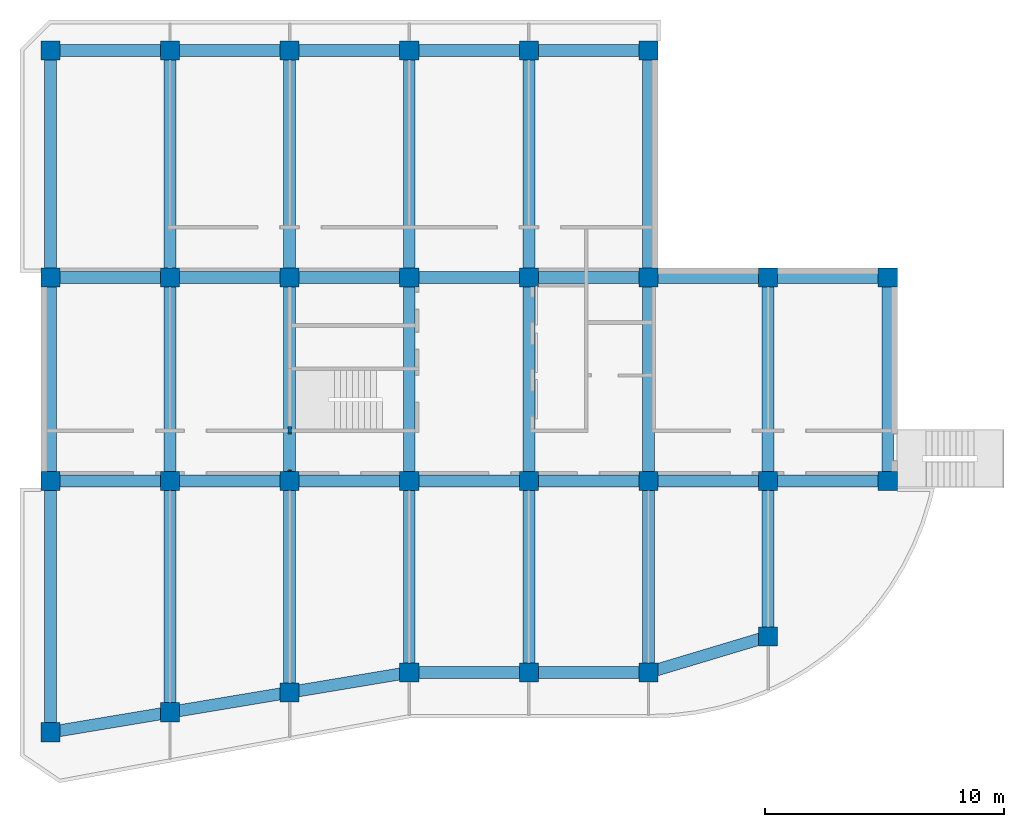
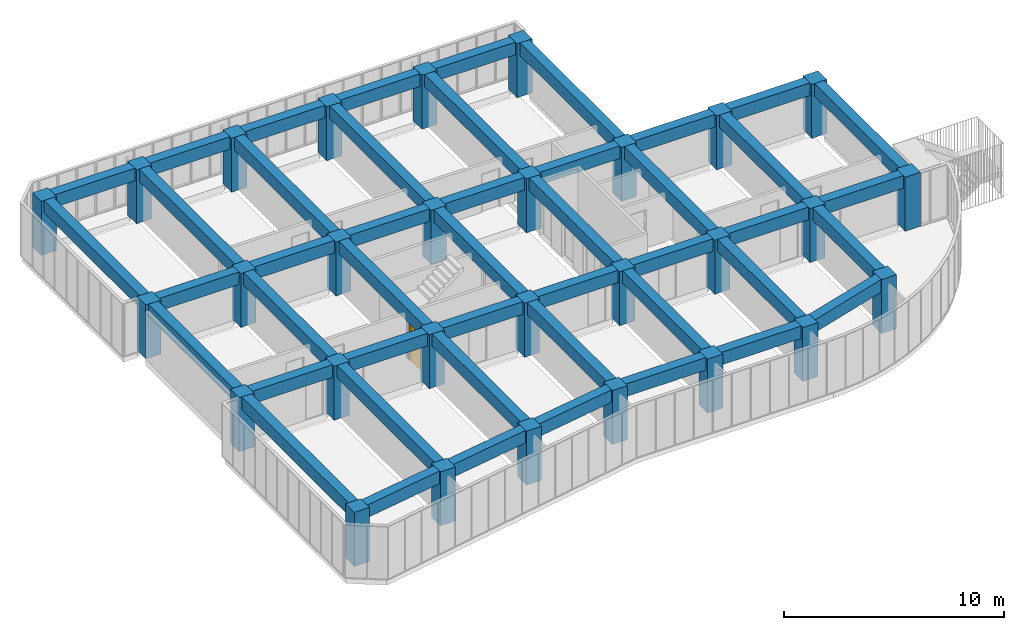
# One storey, part 1 of 5: 46 beams, 29 columns, 1 door, 1 wall, 1 opening.
"""IFC2X3 building model written with IfcOpenShell, lengths in millimetres."""

import ifcopenshell
import ifcopenshell.guid

model = None  # the IFC model being written
_history = None  # IfcOwnerHistory: only IFC2X3 demands one
_inside = {}  # id of a spatial element -> (the spatial element, [elements in it])
_under = {}  # id of a project, library or spatial element -> (it, [spatial elements below it])
_declared = {}  # id of a project -> (the project, [libraries it declares])
_typed = {}  # id of a type object -> (the type object, [elements of that type])
_made_of = {}  # id of a material, layer set ... -> (it, [elements and type objects made of it])


def new_model(schema):
    """Start an empty IFC model of exactly this schema.

    Asked for "IFC4X3", IfcOpenShell would pick the latest addendum, in which some entities
    have other attributes; the version numbers below select the first issue.
    IFC2X3 requires an IfcOwnerHistory on every rooted entity: one is made here for all.
    """
    global model, _history
    if schema == "IFC4X3":
        model = ifcopenshell.file(schema_version=(4, 3, 0, 0))
    else:
        model = ifcopenshell.file(schema=schema)
    _inside.clear()
    _under.clear()
    _declared.clear()
    _typed.clear()
    _made_of.clear()
    _history = None
    if model.schema == "IFC2X3":
        org = make("IfcOrganization", Name="unknown")
        user = make(
            "IfcPersonAndOrganization",
            ThePerson=make("IfcPerson", FamilyName="unknown"),
            TheOrganization=org,
        )
        app = make(
            "IfcApplication",
            ApplicationDeveloper=org,
            Version="unknown",
            ApplicationFullName="unknown",
            ApplicationIdentifier="unknown",
        )
        _history = make(
            "IfcOwnerHistory",
            OwningUser=user,
            OwningApplication=app,
            ChangeAction="ADDED",
            CreationDate=0,
        )
    return model


def make(cls, **values):
    """One entity of the class cls with the attributes given. An attribute that is None is left unset."""
    return model.create_entity(
        cls, **{name: value for name, value in values.items() if value is not None}
    )


def entity(cls, *values):
    """Any entity or typed value of the class cls, its attributes in the order of the schema. None: left unset."""
    e = model.create_entity(cls)
    for i, value in enumerate(values):
        if value is not None:
            e[i] = value
    return e


def rooted(cls, **values):
    """An entity with a GlobalId (a new one), such as an element, a storey or a relation."""
    return make(cls, GlobalId=ifcopenshell.guid.new(), OwnerHistory=_history, **values)


def si_unit(unit_type, name, prefix=None):
    """IfcSIUnit, for example si_unit("LENGTHUNIT", "METRE", prefix="MILLI")."""
    return make("IfcSIUnit", UnitType=unit_type, Prefix=prefix, Name=name)


def converted_unit(unit_type, name, factor, base, dimensions=None, offset=None):
    """IfcConversionBasedUnit, such as the inch: factor (a typed value) times the base unit."""
    return make(
        "IfcConversionBasedUnit"
        if offset is None
        else "IfcConversionBasedUnitWithOffset",
        ConversionOffset=offset,
        Dimensions=None
        if dimensions is None
        else entity("IfcDimensionalExponents", *dimensions),
        UnitType=unit_type,
        Name=name,
        ConversionFactor=make(
            "IfcMeasureWithUnit", ValueComponent=factor, UnitComponent=base
        ),
    )


def derived_unit(unit_type, elements):
    """IfcDerivedUnit: a product of units, each with its exponent."""
    return make(
        "IfcDerivedUnit",
        Elements=[
            make("IfcDerivedUnitElement", Unit=unit, Exponent=power)
            for unit, power in elements
        ],
        UnitType=unit_type,
    )


def money_unit(currency):
    """IfcMonetaryUnit."""
    return make("IfcMonetaryUnit", Currency=currency)


def assignment(units):
    """IfcUnitAssignment: the units of a project."""
    return None if units is None else make("IfcUnitAssignment", Units=units)


def point(xyz):
    """IfcCartesianPoint."""
    return None if xyz is None else make("IfcCartesianPoint", Coordinates=xyz)


def direction(xyz):
    """IfcDirection."""
    return None if xyz is None else make("IfcDirection", DirectionRatios=xyz)


def frame(location, z_axis=None, x_axis=None):
    """IfcAxis2Placement3D, a coordinate frame: its origin and axes. An axis left out is left unset."""
    return make(
        "IfcAxis2Placement3D",
        Location=point(location),
        Axis=direction(z_axis),
        RefDirection=direction(x_axis),
    )


def origin_with_axes():
    """The frame at (0, 0, 0) with the z axis (0, 0, 1) and the x axis (1, 0, 0) written out."""
    return frame((0.0, 0.0, 0.0), z_axis=(0.0, 0.0, 1.0), x_axis=(1.0, 0.0, 0.0))


def place(relative_to, where):
    """IfcLocalPlacement: puts the frame where relative to a parent placement (None: the world)."""
    return make(
        "IfcLocalPlacement", PlacementRelTo=relative_to, RelativePlacement=where
    )


def context(
    kind, dimensions, precision=None, world=None, true_north=None, identifier=None
):
    """IfcGeometricRepresentationContext, for example the 3D "Model" context."""
    return make(
        "IfcGeometricRepresentationContext",
        ContextIdentifier=identifier,
        ContextType=kind,
        CoordinateSpaceDimension=dimensions,
        Precision=precision,
        WorldCoordinateSystem=world,
        TrueNorth=true_north,
    )


def subcontext(parent, identifier, kind, view, scale=None):
    """IfcGeometricRepresentationSubContext, for example "Body" below "Model"."""
    return make(
        "IfcGeometricRepresentationSubContext",
        ContextIdentifier=identifier,
        ContextType=kind,
        ParentContext=parent,
        TargetScale=scale,
        TargetView=view,
    )


def project(units=None, contexts=None):
    """IfcProject with its units and contexts."""
    return rooted(
        "IfcProject",
        Name="project",
        RepresentationContexts=contexts,
        UnitsInContext=assignment(units),
    )


def spatial(cls, under=None, at=None, **own):
    """A site, building, storey or space (cls), placed at a placement, below another one or the project."""
    s = rooted(cls, ObjectPlacement=at, **own)
    if under is not None:
        _under.setdefault(under.id(), (under, []))[1].append(s)
    return s


def faces_of(points, faces, orient=None, outer=None):
    """IfcFace entities. A face is a list of loops; a loop is a list of indices into points, from 0.

    orient and outer hold one flag for each loop. By default every Orientation is true, the
    first loop of a face is its IfcFaceOuterBound and the others are IfcFaceBound.
    """
    made = []
    for i, loops in enumerate(faces):
        bounds = []
        for j, loop in enumerate(loops):
            is_outer = j == 0 if outer is None else outer[i][j]
            bounds.append(
                make(
                    "IfcFaceOuterBound" if is_outer else "IfcFaceBound",
                    Bound=make("IfcPolyLoop", Polygon=[points[k] for k in loop]),
                    Orientation=True if orient is None else orient[i][j],
                )
            )
        made.append(make("IfcFace", Bounds=bounds))
    return made


def open_shell(faces, orient=None, outer=None):
    """The faces of one IfcOpenShell. surface_model builds it on its shared points."""
    return ("IfcOpenShell", faces, orient, outer)


def faceted_brep(points, faces, orient=None, outer=None, voids=None):
    """IfcFacetedBrep: a solid bounded by flat faces; with voids (closed shells), ...WithVoids."""
    shared = [point(p) for p in points]
    hull = make("IfcClosedShell", CfsFaces=faces_of(shared, faces, orient, outer))
    if voids is None:
        return make("IfcFacetedBrep", Outer=hull)
    return make(
        "IfcFacetedBrepWithVoids",
        Outer=hull,
        Voids=[
            make(cls, CfsFaces=faces_of(shared, fs, o, b)) for cls, fs, o, b in voids
        ],
    )


def surface_model(cls, points, shells):
    """IfcFaceBasedSurfaceModel or IfcShellBasedSurfaceModel (cls): surfaces that need not close."""
    shared = [point(p) for p in points]
    made = [make(c, CfsFaces=faces_of(shared, fs, o, b)) for c, fs, o, b in shells]
    if cls == "IfcFaceBasedSurfaceModel":
        return make(cls, FbsmFaces=made)
    return make(cls, SbsmBoundary=made)


def shape(context_of_items, identifier, shape_type, items):
    """IfcShapeRepresentation: the items that make up one representation, for example the "Body"."""
    return make(
        "IfcShapeRepresentation",
        ContextOfItems=context_of_items,
        RepresentationIdentifier=identifier,
        RepresentationType=shape_type,
        Items=items,
    )


def source(mapping_origin, context_of_items, identifier, shape_type, items):
    """IfcRepresentationMap: a shape defined once, which mapped items show again and again."""
    return make(
        "IfcRepresentationMap",
        MappingOrigin=mapping_origin,
        MappedRepresentation=shape(context_of_items, identifier, shape_type, items),
    )


def transform(
    local_origin,
    x_axis=None,
    y_axis=None,
    z_axis=None,
    scale=None,
    scale2=None,
    scale3=None,
    uniform=True,
):
    """IfcCartesianTransformationOperator3D, or its non-uniform kind. x_axis, y_axis, z_axis: its Axis1, 2, 3."""
    if uniform:
        return make(
            "IfcCartesianTransformationOperator3D",
            Axis1=direction(x_axis),
            Axis2=direction(y_axis),
            LocalOrigin=point(local_origin),
            Scale=scale,
            Axis3=direction(z_axis),
        )
    return make(
        "IfcCartesianTransformationOperator3DnonUniform",
        Axis1=direction(x_axis),
        Axis2=direction(y_axis),
        LocalOrigin=point(local_origin),
        Scale=scale,
        Axis3=direction(z_axis),
        Scale2=scale2,
        Scale3=scale3,
    )


def mapped(mapping_source, mapping_target):
    """IfcMappedItem: shows the shape of a source again, moved by a transform."""
    return make(
        "IfcMappedItem", MappingSource=mapping_source, MappingTarget=mapping_target
    )


def material(Name=None, Category=None):
    """IfcMaterial."""
    return make("IfcMaterial", Name=Name, Category=Category)


def made_of(thing, what):
    """Note that an element or type object is made of a material, layer set ...; save() writes the relation."""
    if what is not None:
        _made_of.setdefault(what.id(), (what, []))[1].append(thing)
    return thing


def type_object(cls, material=None, **own):
    """A type object (cls), such as IfcWallType, which elements share."""
    return made_of(rooted(cls, **own), material)


def element(
    cls,
    number,
    at=None,
    inside=None,
    cuts=None,
    type_object=None,
    material=None,
    context=None,
    identifier="Body",
    shape_type=None,
    held_by="IfcProductDefinitionShape",
    body=None,
    shapes=None,
    **own,
):
    """One element of the class cls, such as IfcWall. Its Tag is "e" and its number.

    at: its placement. inside: the storey or other place that contains it. cuts: it is an
    opening in that element (IfcRelVoidsElement). A single representation is given by context,
    identifier, shape_type and body (its items); several are given by shapes. held_by: the class
    of the entity that holds the representations. save() writes the other relations.
    """
    e = rooted(cls, Tag="e%d" % number, ObjectPlacement=at, **own)
    if body is not None:
        shapes = [shape(context, identifier, shape_type, body)]
    if shapes is not None:
        e.Representation = make(held_by, Representations=shapes)
    if inside is not None:
        _inside.setdefault(inside.id(), (inside, []))[1].append(e)
    if cuts is not None:
        rooted(
            "IfcRelVoidsElement", RelatingBuildingElement=cuts, RelatedOpeningElement=e
        )
    if type_object is not None:
        _typed.setdefault(type_object.id(), (type_object, []))[1].append(e)
    return made_of(e, material)


def fill(opening, filler):
    """IfcRelFillsElement: the door or window that sits in an opening."""
    return rooted(
        "IfcRelFillsElement",
        RelatingOpeningElement=opening,
        RelatedBuildingElement=filler,
    )


def aggregate(whole, parts):
    """IfcRelAggregates: a whole, such as a stair, and the parts it consists of."""
    return rooted("IfcRelAggregates", RelatingObject=whole, RelatedObjects=parts)


def save(model, path):
    """Write the relations noted so far, then the file.

    IfcRelAggregates (storeys below a building ...), IfcRelContainedInSpatialStructure (elements
    in a storey), IfcRelDefinesByType, IfcRelAssociatesMaterial and IfcRelDeclares: one each for
    every whole, place, type object, material and project.
    """
    for whole, parts in _under.values():
        aggregate(whole, parts)
    for where, things in _inside.values():
        rooted(
            "IfcRelContainedInSpatialStructure",
            RelatedElements=things,
            RelatingStructure=where,
        )
    for kind, things in _typed.values():
        rooted("IfcRelDefinesByType", RelatedObjects=things, RelatingType=kind)
    for what, things in _made_of.values():
        rooted("IfcRelAssociatesMaterial", RelatedObjects=things, RelatingMaterial=what)
    for by, libraries in _declared.values():
        rooted("IfcRelDeclares", RelatingContext=by, RelatedDefinitions=libraries)
    model.write(path)


model = new_model("IFC2X3")

# Units and contexts
model_context = context("Model", 3, precision=0.01, world=origin_with_axes(), true_north=direction((0.0, 1.0)))
body_context = subcontext(model_context, "Body", "Model", "MODEL_VIEW")
ifc_project = project(units=[si_unit("LENGTHUNIT", "METRE", prefix="MILLI"), si_unit("AREAUNIT", "SQUARE_METRE"), si_unit("VOLUMEUNIT", "CUBIC_METRE"), converted_unit("PLANEANGLEUNIT", "DEGREE", entity("IfcPlaneAngleMeasure", 0.0174532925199), si_unit("PLANEANGLEUNIT", "RADIAN"), dimensions=[0, 0, 0, 0, 0, 0, 0]), si_unit("SOLIDANGLEUNIT", "STERADIAN"), money_unit("JPY"), converted_unit("TIMEUNIT", "Year", entity("IfcTimeMeasure", 31556926.0), si_unit("TIMEUNIT", "SECOND"), dimensions=[0, 0, 1, 0, 0, 0, 0]), si_unit("MASSUNIT", "GRAM", prefix="KILO"), si_unit("THERMODYNAMICTEMPERATUREUNIT", "DEGREE_CELSIUS"), si_unit("LUMINOUSINTENSITYUNIT", "LUMEN"), si_unit("ENERGYUNIT", "JOULE", prefix="MEGA"), derived_unit("THERMALCONDUCTANCEUNIT", [(si_unit("POWERUNIT", "WATT"), 1), (si_unit("LENGTHUNIT", "METRE"), -1), (si_unit("THERMODYNAMICTEMPERATUREUNIT", "KELVIN"), -1)]), derived_unit("SPECIFICHEATCAPACITYUNIT", [(si_unit("ENERGYUNIT", "JOULE"), 1), (si_unit("MASSUNIT", "GRAM", prefix="KILO"), -1), (si_unit("THERMODYNAMICTEMPERATUREUNIT", "KELVIN"), -1)]), derived_unit("MASSDENSITYUNIT", [(si_unit("MASSUNIT", "GRAM", prefix="KILO"), 1), (si_unit("VOLUMEUNIT", "CUBIC_METRE"), -1)])], contexts=[model_context])

# Site, building, storey
site_placement = place(None, origin_with_axes())
site = spatial("IfcSite", under=ifc_project, at=site_placement, Name="サイト", CompositionType="ELEMENT")
building_placement = place(site_placement, origin_with_axes())
building = spatial("IfcBuilding", under=site, at=building_placement, Name="建築", CompositionType="ELEMENT")
storey_placement = place(building_placement, frame((0.0, 0.0, 15000.0), z_axis=(0.0, 0.0, 1.0), x_axis=(1.0, 0.0, 0.0)))
storey = spatial("IfcBuildingStorey", under=building, at=storey_placement, Name="6FL", CompositionType="ELEMENT", Elevation=15000.0)

# Columns
ifc_material = material(Name="コンクリート")
column_type = type_object("IfcColumnType", Name="コンクリート 800 x 800", PredefinedType="NOTDEFINED")
for number, where, z_axis, x_axis, name in (
    (1, (0.0, 0.0, 0.0), (0.0, 0.0, 1.0), (1.0, 0.0, 0.0), "6FLC1"),
    (2, (5000.0, 0.0, 0.0), (0.0, 0.0, 1.0), (1.0, 0.0, 0.0), "6FLC1"),
    (3, (10000.0, 0.0, 0.0), (0.0, 0.0, 1.0), (1.0, 0.0, 0.0), "6FLC1"),
    (4, (15000.0, 0.0, 0.0), (0.0, 0.0, 1.0), (1.0, 0.0, 0.0), "6FLC1"),
    (5, (20000.0, 0.0, 0.0), (0.0, 0.0, 1.0), (1.0, 0.0, 0.0), "6FLC1"),
    (6, (25000.0, 0.0, 0.0), (0.0, 0.0, 1.0), (1.0, 0.0, 0.0), "6FLC1"),
    (7, (30000.0, 0.0, 0.0), (0.0, 0.0, 1.0), (1.0, 0.0, 0.0), "6FLC1"),
    (8, (35000.0, 0.0, 0.0), (0.0, 0.0, 1.0), (1.0, 0.0, 0.0), "6FLC1"),
    (9, (35000.0, 8500.0, 0.0), (0.0, 0.0, 1.0), (1.0, 0.0, 0.0), "6FLC1"),
    (10, (30000.0, 8500.0, 0.0), (0.0, 0.0, 1.0), (1.0, 0.0, 0.0), "6FLC1"),
    (11, (25000.0, 8500.0, 0.0), (0.0, 0.0, 1.0), (1.0, 0.0, 0.0), "6FLC1"),
    (12, (20000.0, 8500.0, 0.0), (0.0, 0.0, 1.0), (1.0, 0.0, 0.0), "6FLC1"),
    (13, (15000.0, 8500.0, 0.0), (0.0, 0.0, 1.0), (1.0, 0.0, 0.0), "6FLC1"),
    (14, (10000.0, 8500.0, 0.0), (0.0, 0.0, 1.0), (1.0, 0.0, 0.0), "6FLC1"),
    (15, (5000.0, 8500.0, 0.0), (0.0, 0.0, 1.0), (1.0, 0.0, 0.0), "6FLC1"),
    (16, (0.0, -10500.0, 0.0), (0.0, 0.0, 1.0), (1.0, 0.0, 0.0), "6FLC1"),
    (17, (5000.0, -9666.66666667, 0.0), (0.0, 0.0, 1.0), (1.0, 0.0, 0.0), "6FLC1"),
    (18, (10000.0, -8833.33333333, 0.0), (0.0, 0.0, 1.0), (1.0, 0.0, 0.0), "6FLC1"),
    (19, (15000.0, -8000.0, 0.0), (0.0, 0.0, 1.0), (1.0, 0.0, 0.0), "6FLC1"),
    (20, (20000.0, -8000.0, 0.0), (0.0, 0.0, 1.0), (1.0, 0.0, 0.0), "6FLC1"),
    (21, (25000.0, -8000.0, 0.0), (0.0, 0.0, 1.0), (1.0, 0.0, 0.0), "6FLC1"),
    (22, (25000.0, 18000.0, 0.0), (0.0, 0.0, 1.0), (1.0, 0.0, 0.0), "6FLC1"),
    (23, (20000.0, 18000.0, 0.0), (0.0, 0.0, 1.0), (1.0, 0.0, 0.0), "6FLC1"),
    (24, (15000.0, 18000.0, 0.0), (0.0, 0.0, 1.0), (1.0, 0.0, 0.0), "6FLC1"),
    (25, (10000.0, 18000.0, 0.0), (0.0, 0.0, 1.0), (1.0, 0.0, 0.0), "6FLC1"),
    (26, (5000.0, 18000.0, 0.0), (0.0, 0.0, 1.0), (1.0, 0.0, 0.0), "6FLC1"),
    (27, (0.0, 18000.0, 0.0), (0.0, 0.0, 1.0), (1.0, 0.0, 0.0), "6FLC1"),
    (28, (0.0, 8500.0, 0.0), (0.0, 0.0, 1.0), (1.0, 0.0, 0.0), "6FLC1"),
    (29, (30000.0, -6500.0, 0.0), (0.0, 0.0, 1.0), (1.0, 0.0, 0.0), "6FLC1"),
):
    element("IfcColumn", number, at=place(storey_placement, frame(where, z_axis=z_axis, x_axis=x_axis)), inside=storey, type_object=column_type, material=ifc_material, Name=name, context=body_context, shape_type="Brep", body=[
        faceted_brep([(-400.0, -400.0, 3000.0), (-400.0, -400.0, 0.0), (400.0, -400.0, 0.0), (400.0, -400.0, 3000.0), (-400.0, 400.0, 3000.0), (-400.0, 400.0, 0.0), (400.0, 400.0, 0.0), (400.0, 400.0, 3000.0)], [[[0, 1, 2, 3]], [[4, 5, 1, 0]], [[2, 1, 5, 6]], [[3, 2, 6, 7]], [[4, 0, 3, 7]], [[7, 6, 5, 4]]]),
    ])

# Beams
beam_type = type_object("IfcBeamType", Name="コンクリート 500 x 700", PredefinedType="NOTDEFINED")
beam_1_placement = place(storey_placement, frame((20000.0, -8000.0, 3000.0), z_axis=(0.0, 0.0, 1.0), x_axis=(0.0, 1.0, 0.0)))
element("IfcBeam", 30, at=beam_1_placement, inside=storey, type_object=beam_type, material=ifc_material, Name="6FLG1", context=body_context, shape_type="Brep", body=[
    faceted_brep([(250.000000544, 400.0, -700.0), (250.000004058, 4600.0, -700.0), (250.000004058, 4600.0, 0.0), (250.000000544, 400.0, 0.0), (-250.000000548, 400.0, -700.0), (-250.00000409, 4600.0, -700.0), (-250.00000409, 4600.0, 0.0), (-250.000000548, 400.0, 0.0)], [[[0, 1, 2, 3]], [[4, 5, 1, 0]], [[5, 6, 2, 1]], [[3, 2, 6, 7]], [[4, 0, 3, 7]], [[7, 6, 5, 4]]]),
])
beam_2_placement = place(storey_placement, frame((25000.0, 0.0, 3000.0), z_axis=(0.0, 0.0, 1.0), x_axis=(-1.0, 0.0, 0.0)))
element("IfcBeam", 31, at=beam_2_placement, inside=storey, type_object=beam_type, material=ifc_material, Name="6FLG1", context=body_context, shape_type="Brep", body=[
    faceted_brep([(-250.0, 7600.0, -700.0), (-250.0, 400.0, -700.0), (-250.0, 400.0, 0.0), (-250.0, 7600.0, 0.0), (250.0, 7600.0, -700.0), (250.0, 400.0, -700.0), (250.0, 400.0, 0.0), (250.0, 7600.0, 0.0)], [[[0, 1, 2, 3]], [[4, 5, 1, 0]], [[5, 6, 2, 1]], [[3, 2, 6, 7]], [[4, 0, 3, 7]], [[7, 6, 5, 4]]]),
])
for number, where, z_axis, x_axis, name in (
    (32, (20000.0, 8500.0, 3000.0), (0.0, 0.0, 1.0), (0.0, -1.0, 0.0), "6FLG1"),
    (33, (15000.0, 8500.0, 3000.0), (0.0, 0.0, 1.0), (0.0, -1.0, 0.0), "6FLG1"),
    (34, (10000.0, 8500.0, 3000.0), (0.0, 0.0, 1.0), (0.0, -1.0, 0.0), "6FLG1"),
    (35, (5000.0, 8500.0, 3000.0), (0.0, 0.0, 1.0), (0.0, -1.0, 0.0), "6FLG1"),
    (36, (5000.0, 18000.0, 3000.0), (0.0, 0.0, 1.0), (0.0, -1.0, 0.0), "6FLG1"),
):
    element("IfcBeam", number, at=place(storey_placement, frame(where, z_axis=z_axis, x_axis=x_axis)), inside=storey, type_object=beam_type, material=ifc_material, Name=name, context=body_context, shape_type="Brep", body=[
        faceted_brep([(250.0, 400.0, 0.0), (250.0, 4600.0, 0.0), (-250.0, 4600.0, 0.0), (-250.0, 400.0, 0.0), (250.0, 400.0, -700.0), (250.0, 4600.0, -700.0), (-250.0, 4600.0, -700.0), (-250.0, 400.0, -700.0)], [[[0, 1, 2, 3]], [[4, 5, 1, 0]], [[5, 6, 2, 1]], [[3, 2, 6, 7]], [[4, 0, 3, 7]], [[7, 6, 5, 4]]]),
    ])
for number, where, z_axis, x_axis, name in (
    (37, (20000.0, 0.0, 3000.0), (0.0, 0.0, 1.0), (0.0, -1.0, 0.0), "6FLG1"),
    (38, (15000.0, 0.0, 3000.0), (0.0, 0.0, 1.0), (0.0, -1.0, 0.0), "6FLG1"),
    (39, (10000.0, 0.0, 3000.0), (0.0, 0.0, 1.0), (0.0, -1.0, 0.0), "6FLG1"),
):
    element("IfcBeam", number, at=place(storey_placement, frame(where, z_axis=z_axis, x_axis=x_axis)), inside=storey, type_object=beam_type, material=ifc_material, Name=name, context=body_context, shape_type="Brep", body=[
        faceted_brep([(-250.0, 4600.0, -700.0), (-250.0, 400.0, -700.0), (-250.0, 400.0, 0.0), (-250.0, 4600.0, 0.0), (250.0, 4600.0, -700.0), (250.0, 400.0, -700.0), (250.0, 400.0, 0.0), (250.0, 4600.0, 0.0)], [[[0, 1, 2, 3]], [[4, 5, 1, 0]], [[5, 6, 2, 1]], [[3, 2, 6, 7]], [[4, 0, 3, 7]], [[7, 6, 5, 4]]]),
    ])
for number, where, z_axis, x_axis, name in (
    (40, (10000.0, 18000.0, 3000.0), (0.0, 0.0, 1.0), (0.0, -1.0, 0.0), "6FLG1"),
    (41, (0.0, 8500.0, 3000.0), (0.0, 0.0, 1.0), (0.0, -1.0, 0.0), "6FLG1"),
):
    element("IfcBeam", number, at=place(storey_placement, frame(where, z_axis=z_axis, x_axis=x_axis)), inside=storey, type_object=beam_type, material=ifc_material, Name=name, context=body_context, shape_type="Brep", body=[
        faceted_brep([(250.0, 400.0, 0.0), (250.0, 4600.0, 0.0), (-250.0, 4600.0, 0.0), (-250.0, 400.0, 0.0), (250.0, 400.0, -700.0), (250.0, 4600.0, -700.0), (-250.0, 4600.0, -700.0), (-250.0, 400.0, -700.0)], [[[0, 1, 2, 3]], [[4, 5, 1, 0]], [[5, 6, 2, 1]], [[3, 2, 6, 7]], [[4, 0, 3, 7]], [[7, 6, 5, 4]]]),
    ])
beam_3_placement = place(storey_placement, frame((30000.0, 0.0, 3000.0), z_axis=(0.0, 0.0, 1.0), x_axis=(0.0, -1.0, 0.0)))
element("IfcBeam", 42, at=beam_3_placement, inside=storey, type_object=beam_type, material=ifc_material, Name="6FLG1", context=body_context, shape_type="Brep", body=[
    faceted_brep([(-250.0, 4600.0, -700.0), (-250.0, 400.0, -700.0), (-250.0, 400.0, 0.0), (-250.0, 4600.0, 0.0), (250.0, 4600.0, -700.0), (250.0, 400.0, -700.0), (250.0, 400.0, 0.0), (250.0, 4600.0, 0.0)], [[[0, 1, 2, 3]], [[4, 5, 1, 0]], [[5, 6, 2, 1]], [[3, 2, 6, 7]], [[4, 0, 3, 7]], [[7, 6, 5, 4]]]),
])
beam_4_placement = place(storey_placement, frame((0.0, 18000.0, 3000.0), z_axis=(0.0, 0.0, 1.0), x_axis=(-1.0, 0.0, 0.0)))
element("IfcBeam", 43, at=beam_4_placement, inside=storey, type_object=beam_type, material=ifc_material, Name="6FLG1", context=body_context, shape_type="Brep", body=[
    faceted_brep([(-250.0, 9100.0, -700.0), (-250.0, 400.0, -700.0), (-250.0, 400.0, 0.0), (-250.0, 9100.0, 0.0), (250.0, 9100.0, -700.0), (250.0, 400.0, -700.0), (250.0, 400.0, 0.0), (250.0, 9100.0, 0.0)], [[[0, 1, 2, 3]], [[4, 5, 1, 0]], [[5, 6, 2, 1]], [[3, 2, 6, 7]], [[4, 0, 3, 7]], [[7, 6, 5, 4]]]),
])
for number, where, z_axis, x_axis, name in (
    (44, (25000.0, 8500.0, 3000.0), (0.0, 0.0, 1.0), (0.0, -1.0, 0.0), "6FLG1"),
    (45, (0.0, 18000.0, 3000.0), (0.0, 0.0, 1.0), (0.0, -1.0, 0.0), "6FLG1"),
):
    element("IfcBeam", number, at=place(storey_placement, frame(where, z_axis=z_axis, x_axis=x_axis)), inside=storey, type_object=beam_type, material=ifc_material, Name=name, context=body_context, shape_type="Brep", body=[
        faceted_brep([(250.0, 400.0, 0.0), (250.0, 4600.0, 0.0), (-250.0, 4600.0, 0.0), (-250.0, 400.0, 0.0), (250.0, 400.0, -700.0), (250.0, 4600.0, -700.0), (-250.0, 4600.0, -700.0), (-250.0, 400.0, -700.0)], [[[0, 1, 2, 3]], [[4, 5, 1, 0]], [[5, 6, 2, 1]], [[3, 2, 6, 7]], [[4, 0, 3, 7]], [[7, 6, 5, 4]]]),
    ])
beam_5_placement = place(storey_placement, frame((30000.0, 8500.0, 3000.0), z_axis=(0.0, 0.0, 1.0), x_axis=(-1.0, 0.0, 0.0)))
element("IfcBeam", 46, at=beam_5_placement, inside=storey, type_object=beam_type, material=ifc_material, Name="6FLG1", context=body_context, shape_type="Brep", body=[
    faceted_brep([(250.0, 400.0, 0.0), (250.0, 8100.0, 0.0), (-250.0, 8100.0, 0.0), (-250.0, 400.0, 0.0), (250.0, 400.0, -700.0), (250.0, 8100.0, -700.0), (-250.0, 8100.0, -700.0), (-250.0, 400.0, -700.0)], [[[0, 1, 2, 3]], [[4, 5, 1, 0]], [[5, 6, 2, 1]], [[3, 2, 6, 7]], [[4, 0, 3, 7]], [[7, 6, 5, 4]]]),
])
beam_6_placement = place(storey_placement, frame((25000.0, 18000.0, 3000.0), z_axis=(0.0, 0.0, 1.0), x_axis=(-1.0, 0.0, 0.0)))
element("IfcBeam", 47, at=beam_6_placement, inside=storey, type_object=beam_type, material=ifc_material, Name="6FLG1", context=body_context, shape_type="Brep", body=[
    faceted_brep([(250.0, 400.0, 0.0), (250.0, 9100.0, 0.0), (-250.0, 9100.0, 0.0), (-250.0, 400.0, 0.0), (250.0, 400.0, -700.0), (250.0, 9100.0, -700.0), (-250.0, 9100.0, -700.0), (-250.0, 400.0, -700.0)], [[[0, 1, 2, 3]], [[4, 5, 1, 0]], [[5, 6, 2, 1]], [[3, 2, 6, 7]], [[4, 0, 3, 7]], [[7, 6, 5, 4]]]),
])
beam_7_placement = place(storey_placement, frame((35000.0, 8500.0, 3000.0), z_axis=(0.0, 0.0, 1.0), x_axis=(-1.0, 0.0, 0.0)))
element("IfcBeam", 48, at=beam_7_placement, inside=storey, type_object=beam_type, material=ifc_material, Name="6FLG1", context=body_context, shape_type="Brep", body=[
    faceted_brep([(250.0, 400.0, 0.0), (250.0, 8100.0, 0.0), (-250.0, 8100.0, 0.0), (-250.0, 400.0, 0.0), (250.0, 400.0, -700.0), (250.0, 8100.0, -700.0), (-250.0, 8100.0, -700.0), (-250.0, 400.0, -700.0)], [[[0, 1, 2, 3]], [[4, 5, 1, 0]], [[5, 6, 2, 1]], [[3, 2, 6, 7]], [[4, 0, 3, 7]], [[7, 6, 5, 4]]]),
])
for number, where, z_axis, x_axis, name in (
    (49, (5000.0, 0.0, 3000.0), (0.0, 0.0, 1.0), (0.0, -1.0, 0.0), "6FLG1"),
    (50, (0.0, 0.0, 3000.0), (0.0, 0.0, 1.0), (0.0, -1.0, 0.0), "6FLG1"),
):
    element("IfcBeam", number, at=place(storey_placement, frame(where, z_axis=z_axis, x_axis=x_axis)), inside=storey, type_object=beam_type, material=ifc_material, Name=name, context=body_context, shape_type="Brep", body=[
        faceted_brep([(-250.0, 4600.0, -700.0), (-250.0, 400.0, -700.0), (-250.0, 400.0, 0.0), (-250.0, 4600.0, 0.0), (250.0, 4600.0, -700.0), (250.0, 400.0, -700.0), (250.0, 400.0, 0.0), (250.0, 4600.0, 0.0)], [[[0, 1, 2, 3]], [[4, 5, 1, 0]], [[5, 6, 2, 1]], [[3, 2, 6, 7]], [[4, 0, 3, 7]], [[7, 6, 5, 4]]]),
    ])
beam_8_placement = place(storey_placement, frame((0.0, 0.0, 3000.0), z_axis=(0.0, 0.0, 1.0), x_axis=(1.0, 0.0, 0.0)))
element("IfcBeam", 51, at=beam_8_placement, inside=storey, type_object=beam_type, material=ifc_material, Name="6FLG1", context=body_context, shape_type="Brep", body=[
    faceted_brep([(-250.0, 8100.0, 0.0), (-250.0, 400.0, 0.0), (250.0, 400.0, 0.0), (250.0, 8100.0, 0.0), (-250.0, 8100.0, -700.0), (-250.0, 400.0, -700.0), (250.0, 400.0, -700.0), (250.0, 8100.0, -700.0)], [[[0, 1, 2, 3]], [[4, 5, 1, 0]], [[5, 6, 2, 1]], [[3, 2, 6, 7]], [[4, 0, 3, 7]], [[7, 6, 5, 4]]]),
])
beam_9_placement = place(storey_placement, frame((15000.0, -8000.0, 3000.0), z_axis=(0.0, 0.0, 1.0), x_axis=(-0.164398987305, 0.986393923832, 0.0)))
element("IfcBeam", 52, at=beam_9_placement, inside=storey, type_object=beam_type, material=ifc_material, Name="6FLG1", context=body_context, shape_type="Brep", body=[
    faceted_brep([(250.0, 363.850835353, -700.0), (250.0, 4621.78460656, -700.0), (250.0, 4621.78460656, 0.0), (250.0, 363.850835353, 0.0), (-250.00000447, 447.184169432, -700.0), (-250.00000447, 4705.11794064, -700.0), (-250.00000447, 4705.11794064, 0.0), (-250.00000447, 447.184169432, 0.0)], [[[0, 1, 2, 3]], [[4, 5, 1, 0]], [[5, 6, 2, 1]], [[3, 2, 6, 7]], [[4, 0, 3, 7]], [[7, 6, 5, 4]]]),
])
beam_10_placement = place(storey_placement, frame((0.0, -10500.0, 3000.0), z_axis=(0.0, 0.0, 1.0), x_axis=(1.0, 0.0, 0.0)))
element("IfcBeam", 53, at=beam_10_placement, inside=storey, type_object=beam_type, material=ifc_material, Name="6FLG1", context=body_context, shape_type="Brep", body=[
    faceted_brep([(250.0, 400.0, -700.0), (250.0, 10100.0, -700.0), (250.0, 10100.0, 0.0), (250.0, 400.0, 0.0), (-250.0, 400.0, -700.0), (-250.0, 10100.0, -700.0), (-250.0, 10100.0, 0.0), (-250.0, 400.0, 0.0)], [[[0, 1, 2, 3]], [[4, 5, 1, 0]], [[5, 6, 2, 1]], [[3, 2, 6, 7]], [[4, 0, 3, 7]], [[7, 6, 5, 4]]]),
])
for number, where, z_axis, x_axis, name in (
    (54, (20000.0, 18000.0, 3000.0), (0.0, 0.0, 1.0), (-1.0, 0.0, 0.0), "6FLG1"),
    (55, (15000.0, 18000.0, 3000.0), (0.0, 0.0, 1.0), (-1.0, 0.0, 0.0), "6FLG1"),
    (56, (10000.0, 18000.0, 3000.0), (0.0, 0.0, 1.0), (-1.0, 0.0, 0.0), "6FLG1"),
):
    element("IfcBeam", number, at=place(storey_placement, frame(where, z_axis=z_axis, x_axis=x_axis)), inside=storey, type_object=beam_type, material=ifc_material, Name=name, context=body_context, shape_type="Brep", body=[
        faceted_brep([(250.0, 400.0, 0.0), (250.0, 9100.0, 0.0), (-250.0, 9100.0, 0.0), (-250.0, 400.0, 0.0), (250.0, 400.0, -700.0), (250.0, 9100.0, -700.0), (-250.0, 9100.0, -700.0), (-250.0, 400.0, -700.0)], [[[0, 1, 2, 3]], [[4, 5, 1, 0]], [[5, 6, 2, 1]], [[3, 2, 6, 7]], [[4, 0, 3, 7]], [[7, 6, 5, 4]]]),
    ])
beam_11_placement = place(storey_placement, frame((5000.0, 8500.0, 3000.0), z_axis=(0.0, 0.0, 1.0), x_axis=(1.0, 0.0, 0.0)))
element("IfcBeam", 57, at=beam_11_placement, inside=storey, type_object=beam_type, material=ifc_material, Name="6FLG1", context=body_context, shape_type="Brep", body=[
    faceted_brep([(-250.0, 9100.0, 0.0), (-250.0, 400.0, 0.0), (250.0, 400.0, 0.0), (250.0, 9100.0, 0.0), (-250.0, 9100.0, -700.0), (-250.0, 400.0, -700.0), (250.0, 400.0, -700.0), (250.0, 9100.0, -700.0)], [[[0, 1, 2, 3]], [[4, 5, 1, 0]], [[5, 6, 2, 1]], [[3, 2, 6, 7]], [[4, 0, 3, 7]], [[7, 6, 5, 4]]]),
])
beam_12_placement = place(storey_placement, frame((10000.0, 0.0, 3000.0), z_axis=(0.0, 0.0, 1.0), x_axis=(-1.0, 0.0, 0.0)))
element("IfcBeam", 58, at=beam_12_placement, inside=storey, type_object=beam_type, material=ifc_material, Name="6FLG1", context=body_context, shape_type="Brep", body=[
    faceted_brep([(-250.000000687, 8433.33333333, -700.0), (-250.000000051, 400.0, -700.0), (-250.000000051, 400.0, 0.0), (-250.000000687, 8433.33333333, 0.0), (249.999999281, 8433.33333333, -700.0), (249.999999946, 400.0, -700.0), (249.999999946, 400.0, 0.0), (249.999999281, 8433.33333333, 0.0)], [[[0, 1, 2, 3]], [[4, 5, 1, 0]], [[5, 6, 2, 1]], [[3, 2, 6, 7]], [[4, 0, 3, 7]], [[7, 6, 5, 4]]]),
])
for number, where, z_axis, x_axis, name in (
    (59, (15000.0, 8500.0, 3000.0), (0.0, 0.0, 1.0), (-1.0, 0.0, 0.0), "6FLG1"),
    (60, (10000.0, 8500.0, 3000.0), (0.0, 0.0, 1.0), (-1.0, 0.0, 0.0), "6FLG1"),
    (61, (5000.0, 8500.0, 3000.0), (0.0, 0.0, 1.0), (-1.0, 0.0, 0.0), "6FLG1"),
):
    element("IfcBeam", number, at=place(storey_placement, frame(where, z_axis=z_axis, x_axis=x_axis)), inside=storey, type_object=beam_type, material=ifc_material, Name=name, context=body_context, shape_type="Brep", body=[
        faceted_brep([(250.0, 400.0, 0.0), (250.0, 8100.0, 0.0), (-250.0, 8100.0, 0.0), (-250.0, 400.0, 0.0), (250.0, 400.0, -700.0), (250.0, 8100.0, -700.0), (-250.0, 8100.0, -700.0), (-250.0, 400.0, -700.0)], [[[0, 1, 2, 3]], [[4, 5, 1, 0]], [[5, 6, 2, 1]], [[3, 2, 6, 7]], [[4, 0, 3, 7]], [[7, 6, 5, 4]]]),
    ])
for number, where, z_axis, x_axis, name in (
    (62, (20000.0, 18000.0, 3000.0), (0.0, 0.0, 1.0), (0.0, -1.0, 0.0), "6FLG1"),
    (63, (15000.0, 18000.0, 3000.0), (0.0, 0.0, 1.0), (0.0, -1.0, 0.0), "6FLG1"),
):
    element("IfcBeam", number, at=place(storey_placement, frame(where, z_axis=z_axis, x_axis=x_axis)), inside=storey, type_object=beam_type, material=ifc_material, Name=name, context=body_context, shape_type="Brep", body=[
        faceted_brep([(250.0, 400.0, 0.0), (250.0, 4600.0, 0.0), (-250.0, 4600.0, 0.0), (-250.0, 400.0, 0.0), (250.0, 400.0, -700.0), (250.0, 4600.0, -700.0), (-250.0, 4600.0, -700.0), (-250.0, 400.0, -700.0)], [[[0, 1, 2, 3]], [[4, 5, 1, 0]], [[5, 6, 2, 1]], [[3, 2, 6, 7]], [[4, 0, 3, 7]], [[7, 6, 5, 4]]]),
    ])
beam_13_placement = place(storey_placement, frame((25000.0, 8500.0, 3000.0), z_axis=(0.0, 0.0, 1.0), x_axis=(-1.0, 0.0, 0.0)))
element("IfcBeam", 64, at=beam_13_placement, inside=storey, type_object=beam_type, material=ifc_material, Name="6FLG1", context=body_context, shape_type="Brep", body=[
    faceted_brep([(250.0, 400.0, 0.0), (250.0, 8100.0, 0.0), (-250.0, 8100.0, 0.0), (-250.0, 400.0, 0.0), (250.0, 400.0, -700.0), (250.0, 8100.0, -700.0), (-250.0, 8100.0, -700.0), (-250.0, 400.0, -700.0)], [[[0, 1, 2, 3]], [[4, 5, 1, 0]], [[5, 6, 2, 1]], [[3, 2, 6, 7]], [[4, 0, 3, 7]], [[7, 6, 5, 4]]]),
])
beam_14_placement = place(storey_placement, frame((25000.0, 0.0, 3000.0), z_axis=(0.0, 0.0, 1.0), x_axis=(0.0, -1.0, 0.0)))
element("IfcBeam", 65, at=beam_14_placement, inside=storey, type_object=beam_type, material=ifc_material, Name="6FLG1", context=body_context, shape_type="Brep", body=[
    faceted_brep([(-250.0, 4600.0, -700.0), (-250.0, 400.0, -700.0), (-250.0, 400.0, 0.0), (-250.0, 4600.0, 0.0), (250.0, 4600.0, -700.0), (250.0, 400.0, -700.0), (250.0, 400.0, 0.0), (250.0, 4600.0, 0.0)], [[[0, 1, 2, 3]], [[4, 5, 1, 0]], [[5, 6, 2, 1]], [[3, 2, 6, 7]], [[4, 0, 3, 7]], [[7, 6, 5, 4]]]),
])
beam_15_placement = place(storey_placement, frame((25000.0, -8000.0, 3000.0), z_axis=(0.0, 0.0, 1.0), x_axis=(0.0, 1.0, 0.0)))
element("IfcBeam", 66, at=beam_15_placement, inside=storey, type_object=beam_type, material=ifc_material, Name="6FLG1", context=body_context, shape_type="Brep", body=[
    faceted_brep([(250.0, 400.0, -700.0), (250.0, 4600.0, -700.0), (250.0, 4600.0, 0.0), (250.0, 400.0, 0.0), (-250.000004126, 400.0, -700.0), (-250.000000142, 4600.0, -700.0), (-250.000000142, 4600.0, 0.0), (-250.000004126, 400.0, 0.0)], [[[0, 1, 2, 3]], [[4, 5, 1, 0]], [[5, 6, 2, 1]], [[3, 2, 6, 7]], [[4, 0, 3, 7]], [[7, 6, 5, 4]]]),
])
beam_16_placement = place(storey_placement, frame((15000.0, 0.0, 3000.0), z_axis=(0.0, 0.0, 1.0), x_axis=(-1.0, 0.0, 0.0)))
element("IfcBeam", 67, at=beam_16_placement, inside=storey, type_object=beam_type, material=ifc_material, Name="6FLG1", context=body_context, shape_type="Brep", body=[
    faceted_brep([(-250.0, 7600.0, -700.0), (-250.0, 400.0, -700.0), (-250.0, 400.0, 0.0), (-250.0, 7600.0, 0.0), (250.0, 7600.0, -700.0), (250.0, 400.0, -700.0), (250.0, 400.0, 0.0), (250.0, 7600.0, 0.0)], [[[0, 1, 2, 3]], [[4, 5, 1, 0]], [[5, 6, 2, 1]], [[3, 2, 6, 7]], [[4, 0, 3, 7]], [[7, 6, 5, 4]]]),
])
beam_17_placement = place(storey_placement, frame((5000.0, -9666.66666667, 3000.0), z_axis=(0.0, 0.0, 1.0), x_axis=(-0.164398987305, 0.986393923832, 0.0)))
element("IfcBeam", 68, at=beam_17_placement, inside=storey, type_object=beam_type, material=ifc_material, Name="6FLG1", context=body_context, shape_type="Brep", body=[
    faceted_brep([(249.999995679, 363.850836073, -700.0), (249.999999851, 4621.78460659, -700.0), (249.999999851, 4621.78460659, 0.0), (249.999995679, 363.850836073, 0.0), (-250.000004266, 447.184169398, -700.0), (-250.000000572, 4705.11793999, -700.0), (-250.000000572, 4705.11793999, 0.0), (-250.000004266, 447.184169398, 0.0)], [[[0, 1, 2, 3]], [[4, 5, 1, 0]], [[5, 6, 2, 1]], [[3, 2, 6, 7]], [[4, 0, 3, 7]], [[7, 6, 5, 4]]]),
])
beam_18_placement = place(storey_placement, frame((20000.0, 8500.0, 3000.0), z_axis=(0.0, 0.0, 1.0), x_axis=(-1.0, 0.0, 0.0)))
element("IfcBeam", 69, at=beam_18_placement, inside=storey, type_object=beam_type, material=ifc_material, Name="6FLG1", context=body_context, shape_type="Brep", body=[
    faceted_brep([(250.0, 400.0, 0.0), (250.0, 8100.0, 0.0), (-250.0, 8100.0, 0.0), (-250.0, 400.0, 0.0), (250.0, 400.0, -700.0), (250.0, 8100.0, -700.0), (-250.0, 8100.0, -700.0), (-250.0, 400.0, -700.0)], [[[0, 1, 2, 3]], [[4, 5, 1, 0]], [[5, 6, 2, 1]], [[3, 2, 6, 7]], [[4, 0, 3, 7]], [[7, 6, 5, 4]]]),
])
beam_19_placement = place(storey_placement, frame((5000.0, 0.0, 3000.0), z_axis=(0.0, 0.0, 1.0), x_axis=(-1.0, 0.0, 0.0)))
element("IfcBeam", 70, at=beam_19_placement, inside=storey, type_object=beam_type, material=ifc_material, Name="6FLG1", context=body_context, shape_type="Brep", body=[
    faceted_brep([(-250.000000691, 9266.66666667, -700.0), (-250.000000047, 400.0, -700.0), (-250.000000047, 400.0, 0.0), (-250.000000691, 9266.66666667, 0.0), (249.999999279, 9266.66666667, -700.0), (249.999999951, 400.0, -700.0), (249.999999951, 400.0, 0.0), (249.999999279, 9266.66666667, 0.0)], [[[0, 1, 2, 3]], [[4, 5, 1, 0]], [[5, 6, 2, 1]], [[3, 2, 6, 7]], [[4, 0, 3, 7]], [[7, 6, 5, 4]]]),
])
beam_20_placement = place(storey_placement, frame((20000.0, -8000.0, 3000.0), z_axis=(0.0, 0.0, 1.0), x_axis=(1.0, 0.0, 0.0)))
element("IfcBeam", 71, at=beam_20_placement, inside=storey, type_object=beam_type, material=ifc_material, Name="6FLG1", context=body_context, shape_type="Brep", body=[
    faceted_brep([(250.0, 400.0, -700.0), (250.0, 7600.0, -700.0), (250.0, 7600.0, 0.0), (250.0, 400.0, 0.0), (-250.0, 400.0, -700.0), (-250.0, 7600.0, -700.0), (-250.0, 7600.0, 0.0), (-250.0, 400.0, 0.0)], [[[0, 1, 2, 3]], [[4, 5, 1, 0]], [[5, 6, 2, 1]], [[3, 2, 6, 7]], [[4, 0, 3, 7]], [[7, 6, 5, 4]]]),
])
beam_21_placement = place(storey_placement, frame((10000.0, -8833.33333333, 3000.0), z_axis=(0.0, 0.0, 1.0), x_axis=(-0.164398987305, 0.986393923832, 0.0)))
element("IfcBeam", 72, at=beam_21_placement, inside=storey, type_object=beam_type, material=ifc_material, Name="6FLG1", context=body_context, shape_type="Brep", body=[
    faceted_brep([(249.99999567, 363.850836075, -700.0), (249.999999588, 4621.78460663, -700.0), (249.999999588, 4621.78460663, 0.0), (249.99999567, 363.850836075, 0.0), (-250.00000447, 447.184169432, -700.0), (-250.00000447, 4705.11794064, -700.0), (-250.00000447, 4705.11794064, 0.0), (-250.00000447, 447.184169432, 0.0)], [[[0, 1, 2, 3]], [[4, 5, 1, 0]], [[5, 6, 2, 1]], [[3, 2, 6, 7]], [[4, 0, 3, 7]], [[7, 6, 5, 4]]]),
])
beam_22_placement = place(storey_placement, frame((30000.0, 8500.0, 3000.0), z_axis=(0.0, 0.0, 1.0), x_axis=(0.0, -1.0, 0.0)))
element("IfcBeam", 73, at=beam_22_placement, inside=storey, type_object=beam_type, material=ifc_material, Name="6FLG1", context=body_context, shape_type="Brep", body=[
    faceted_brep([(250.0, 400.0, 0.0), (250.0, 4600.0, 0.0), (-250.0, 4600.0, 0.0), (-250.0, 400.0, 0.0), (250.0, 400.0, -700.0), (250.0, 4600.0, -700.0), (-250.0, 4600.0, -700.0), (-250.0, 400.0, -700.0)], [[[0, 1, 2, 3]], [[4, 5, 1, 0]], [[5, 6, 2, 1]], [[3, 2, 6, 7]], [[4, 0, 3, 7]], [[7, 6, 5, 4]]]),
])
beam_23_placement = place(storey_placement, frame((30000.0, -6500.0, 3000.0), z_axis=(0.0, 0.0, 1.0), x_axis=(-0.287347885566, 0.957826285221, 0.0)))
element("IfcBeam", 74, at=beam_23_placement, inside=storey, type_object=beam_type, material=ifc_material, Name="6FLG2", context=body_context, shape_type="Brep", body=[
    faceted_brep([(250.000000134, 342.612260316, -700.0), (250.000003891, 4727.54099293, -700.0), (250.000003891, 4727.54099293, 0.0), (250.000000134, 342.612260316, 0.0), (-249.99999984, 492.612260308, -700.0), (-249.999998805, 4877.54099374, -700.0), (-249.999998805, 4877.54099374, 0.0), (-249.99999984, 492.612260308, 0.0)], [[[0, 1, 2, 3]], [[4, 5, 1, 0]], [[5, 6, 2, 1]], [[3, 2, 6, 7]], [[4, 0, 3, 7]], [[7, 6, 5, 4]]]),
])
beam_24_placement = place(storey_placement, frame((30000.0, 0.0, 3000.0), z_axis=(0.0, 0.0, 1.0), x_axis=(-1.0, 0.0, 0.0)))
element("IfcBeam", 75, at=beam_24_placement, inside=storey, type_object=beam_type, material=ifc_material, Name="6FLG1", context=body_context, shape_type="Brep", body=[
    faceted_brep([(-250.0, 6100.0, -700.0), (-250.0, 400.0, -700.0), (-250.0, 400.0, 0.0), (-250.0, 6100.0, 0.0), (250.0, 6100.0, -700.0), (250.0, 400.0, -700.0), (250.0, 400.0, 0.0), (250.0, 6100.0, 0.0)], [[[0, 1, 2, 3]], [[4, 5, 1, 0]], [[5, 6, 2, 1]], [[3, 2, 6, 7]], [[4, 0, 3, 7]], [[7, 6, 5, 4]]]),
])

# Wall, opening, door
wall_type = type_object("IfcWallType", Name="コンクリート 150", PredefinedType="NOTDEFINED")
wall_placement = place(storey_placement, frame((10000.0, 324.999998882, 0.0), z_axis=(0.0, 0.0, 1.0), x_axis=(0.0, 1.0, 0.0)))
wall = element("IfcWall", 76, at=wall_placement, inside=storey, type_object=wall_type, material=ifc_material, Name="6FLW4", context=body_context, shape_type="Brep", body=[
    faceted_brep([(115.000001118, -75.0, 0.0), (115.000001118, -75.0, 2130.0), (1675.00000112, -75.0, 2130.0), (1675.00000112, -75.0, 0.0), (1950.00000112, -75.0, 0.0), (1950.00000112, -75.0, 2300.0), (75.0, -75.0, 2300.0), (75.0, -75.0, 0.0), (115.000001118, 75.0, 0.0), (115.000001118, 75.0, 2130.0), (1675.00000112, 75.0, 2130.0), (1675.00000112, 75.0, 0.0), (1950.00000112, 75.0, 0.0), (1950.00000112, 75.0, 2300.0), (75.0, 75.0, 2300.0), (75.0, 0.0, 2300.0), (75.0, 0.0, 0.0), (75.0, 75.0, 0.0)], [[[0, 1, 2, 3, 4, 5, 6, 7]], [[1, 0, 8, 9]], [[2, 1, 9, 10]], [[3, 2, 10, 11]], [[3, 11, 12, 4]], [[12, 13, 5, 4]], [[6, 5, 13, 14, 15]], [[7, 6, 15, 16]], [[8, 0, 7, 16, 17]], [[9, 8, 17, 14, 13, 12, 11, 10]], [[16, 15, 14, 17]]]),
])
opening_placement = place(wall_placement, frame((895.000001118, 0.0, 0.0), z_axis=(0.0, 0.0, 1.0), x_axis=(1.0, 0.0, 0.0)))
opening = element("IfcOpeningElement", 77, at=opening_placement, cuts=wall, Name="6FLSD3", context=body_context, shape_type="Brep", body=[
    faceted_brep([(-780.0, -160.0, 0.0), (-780.0, -160.0, 2130.0), (-780.0, 160.0, 2130.0), (-780.0, 160.0, 0.0), (780.0, -160.0, 0.0), (780.0, -160.0, 2130.0), (780.0, 160.0, 2130.0), (780.0, 160.0, 0.0)], [[[0, 1, 2, 3]], [[0, 4, 5, 1]], [[1, 5, 6, 2]], [[3, 2, 6, 7]], [[4, 0, 3, 7]], [[5, 4, 7, 6]]]),
])
door_style = type_object("IfcDoorStyle", Name="親子開き戸", ConstructionType="NOTDEFINED", OperationType="NOTDEFINED", ParameterTakesPrecedence=False, Sizeable=False)
shared_shape = source(origin_with_axes(), body_context, "Body", "SurfaceModel", [
    surface_model("IfcShellBasedSurfaceModel", [(150.0, -85.0, 0.0), (-750.0, -85.0, 0.0), (-750.0, -85.0, 2100.0), (150.0, -85.0, 2100.0)], [open_shell([[[0, 1, 2, 3]]])]),
    surface_model("IfcShellBasedSurfaceModel", [(150.0, -85.0, 0.0), (150.0, -85.0, 2100.0), (750.0, -85.0, 2100.0), (750.0, -85.0, 0.0)], [open_shell([[[0, 1, 2, 3]]])]),
    surface_model("IfcShellBasedSurfaceModel", [(780.0, -10.0, 0.0), (750.0, -10.0, 0.0), (750.0, -10.0, 2100.0), (-750.0, -10.0, 2100.0), (-750.0, -10.0, 0.0), (-780.0, -10.0, 0.0), (-780.0, -10.0, 2130.0), (780.0, -10.0, 2130.0)], [open_shell([[[0, 1, 2, 3, 4, 5, 6, 7]]])]),
    surface_model("IfcShellBasedSurfaceModel", [(780.0, -160.0, 0.0), (750.0, -160.0, 0.0), (750.0, -160.0, 2100.0), (-750.0, -160.0, 2100.0), (-750.0, -160.0, 0.0), (-780.0, -160.0, 0.0), (-780.0, -160.0, 2130.0), (780.0, -160.0, 2130.0)], [open_shell([[[0, 1, 2, 3, 4, 5, 6, 7]]])]),
    surface_model("IfcShellBasedSurfaceModel", [(750.0, -10.0, 0.0), (750.0, -160.0, 0.0), (750.0, -160.0, 2100.0), (750.0, -10.0, 2100.0), (780.0, -10.0, 0.0), (780.0, -160.0, 0.0), (-750.0, -160.0, 2100.0), (-750.0, -10.0, 2100.0), (780.0, -10.0, 2130.0), (780.0, -160.0, 2130.0), (-750.0, -160.0, 0.0), (-750.0, -10.0, 0.0), (-780.0, -10.0, 2130.0), (-780.0, -160.0, 2130.0), (-780.0, -160.0, 0.0), (-780.0, -10.0, 0.0)], [open_shell([[[0, 1, 2, 3]], [[4, 5, 1, 0]], [[3, 2, 6, 7]], [[8, 9, 5, 4]], [[7, 6, 10, 11]], [[12, 13, 9, 8]], [[11, 10, 14, 15]], [[15, 14, 13, 12]]])]),
])
door_placement = place(opening_placement, frame((750.0, 0.0, 0.0), z_axis=(0.0, 0.0, 1.0), x_axis=(-1.0, 0.0, 0.0)))
door = element("IfcDoor", 78, at=door_placement, inside=storey, type_object=door_style, Name="6FLSD3", OverallHeight=2165.0, OverallWidth=1630.0, context=body_context, shape_type="MappedRepresentation", body=[
    mapped(shared_shape, transform((750.0, 85.0, 0.0))),
])
fill(opening, door)

save(model, "model.ifc")
